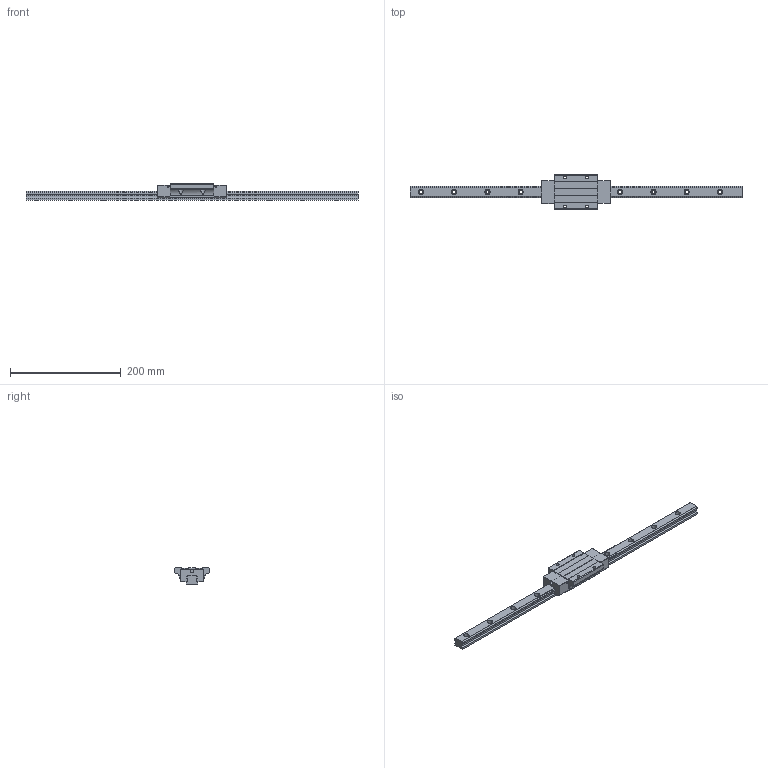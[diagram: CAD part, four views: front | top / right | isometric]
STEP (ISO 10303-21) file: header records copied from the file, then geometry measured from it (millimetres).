
FILE_DESCRIPTION (( 'STEP AP203' ), '1' );
FILE_NAME ('TRH20FE-DZ.STEP', '2024-07-04T06:10:58', ( '' ), ( '' ), 'SwSTEP 2.0', 'SolidWorks 2022', '' );
FILE_SCHEMA (( 'CONFIG_CONTROL_DESIGN' ));
Length unit declared in the file: millimetre
Products named in the file (1): TRH20FE-DZ
Bounding box: 600 x 63 x 30 mm (x, y, z)
Volume: 282720.4 mm3; surface area: 75441.7 mm2
Topology: 2 solids, 2 shells, 222 faces, 598 edges, 392 vertices
Faces by surface type: cylinder 126, plane 92, sphere 4
Entity records: 7691 total; most frequent: CARTESIAN_POINT 1835, DIRECTION 1242, ORIENTED_EDGE 1188, EDGE_CURVE 594, AXIS2_PLACEMENT_3D 451, VERTEX_POINT 392, LINE 340, VECTOR 340
